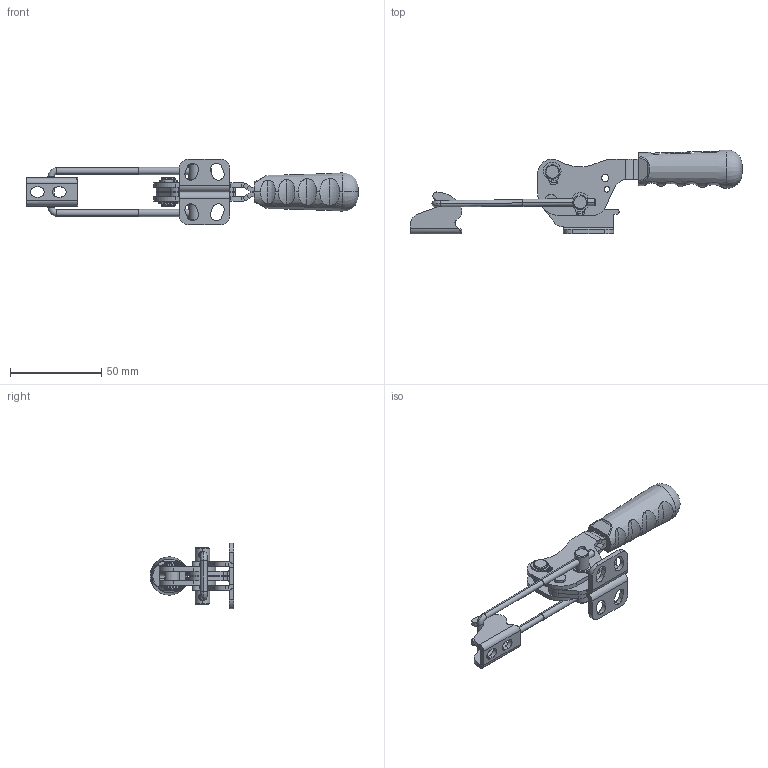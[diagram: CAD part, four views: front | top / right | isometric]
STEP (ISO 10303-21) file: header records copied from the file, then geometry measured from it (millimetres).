
FILE_DESCRIPTION (( 'STEP AP203' ), '1' );
FILE_NAME ('13105_Y.STEP', '2022-11-29T14:01:11', ( '' ), ( '' ), 'SwSTEP 2.0', 'SolidWorks 2023', '' );
FILE_SCHEMA (( 'CONFIG_CONTROL_DESIGN' ));
Length unit declared in the file: millimetre
Products named in the file (12): M4x40_U_KANCA_Varsayılan; 13105_Y; Ø8xM4 U Kanca_Varsayılan; M4_KK_2; Aynalama13105 Hareket Kolu_Varsayılan; 13105 Gövde_Varsayılan; 4x12_5_PERÇİN_Varsayılan; DIN 471 Ø8 Segman_Circlip DIN 471 - 8 x 0.8; Aynalama13105 Gövde_Varsayılan; C55_Yeni_Tutamak_Varsayılan; dikey kullanım cap 8 mili_Varsayılan; 13105 Hareket Kolu_Varsayılan
Assembly tree (14 placements, depth 2):
  13105_Y
    13105 Gövde_Varsayılan
    13105 Hareket Kolu_Varsayılan
    Aynalama13105 Hareket Kolu_Varsayılan
    Aynalama13105 Gövde_Varsayılan
    Ø8xM4 U Kanca_Varsayılan
    4x12_5_PERÇİN_Varsayılan
    DIN 471 Ø8 Segman_Circlip DIN 471 - 8 x 0.8  x4
    M4x40_U_KANCA_Varsayılan
    C55_Yeni_Tutamak_Varsayılan
    dikey kullanım cap 8 mili_Varsayılan
    M4_KK_2
Bounding box: 182.13 x 46.03 x 36.06 mm (x, y, z)
Volume: 32473.4 mm3; surface area: 25552.1 mm2
Topology: 14 solids, 14 shells, 599 faces, 1538 edges, 985 vertices
Faces by surface type: plane 314, cylinder 238, torus 20, bspline 14, cone 13
Entity records: 18718 total; most frequent: CARTESIAN_POINT 4669, DIRECTION 2686, ORIENTED_EDGE 2626, EDGE_CURVE 1313, AXIS2_PLACEMENT_3D 940, VERTEX_POINT 835, LINE 806, VECTOR 806
